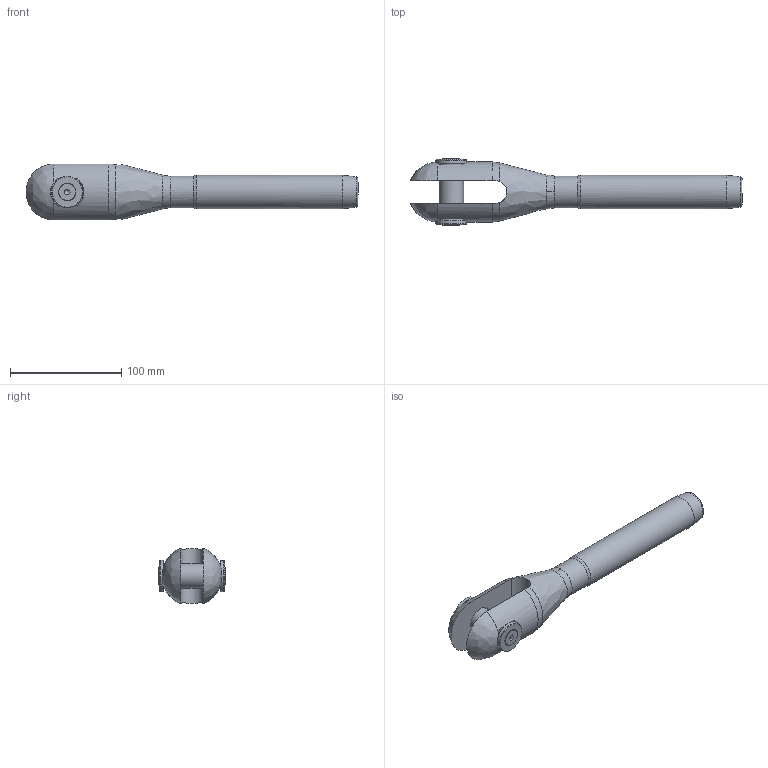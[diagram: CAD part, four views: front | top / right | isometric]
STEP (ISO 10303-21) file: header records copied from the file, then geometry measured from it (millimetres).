
FILE_DESCRIPTION(/* description */ (''),/* implementation_level */ '2;1');
FILE_NAME(/* name */ 'MAC 16_42CrMo4',/* time_stamp */ '2023-05-23T16:55:15+02:00',/* author */ (''),/* organization */ (''),/* preprocessor_version */ 'ST-DEVELOPER v16.5',/* originating_system */ 'Rhino 7.22',/* authorisation */ '');
FILE_SCHEMA (('CONFIG_CONTROL_DESIGN'));
Length unit declared in the file: millimetre
Products named in the file (1): Document
Bounding box: 298.07 x 59.67 x 50.16 mm (x, y, z)
Volume: 270939.6 mm3; surface area: 50987.9 mm2
Topology: 6 solids, 6 shells, 75 faces, 210 edges, 145 vertices
Faces by surface type: plane 29, bspline 24, cylinder 22
Full cylindrical faces by diameter (mm): 6.647 x2, 8 x2, 8.5 x2, 15.24 x2, 22 x1, 24 x2, 28 x2, 28.6 x1, 30 x1
Entity records: 3106 total; most frequent: CARTESIAN_POINT 1759, ORIENTED_EDGE 412, EDGE_CURVE 206, VERTEX_POINT 145, EDGE_LOOP 85, B_SPLINE_CURVE_WITH_KNOTS 84, ADVANCED_FACE 75, FACE_OUTER_BOUND 75
